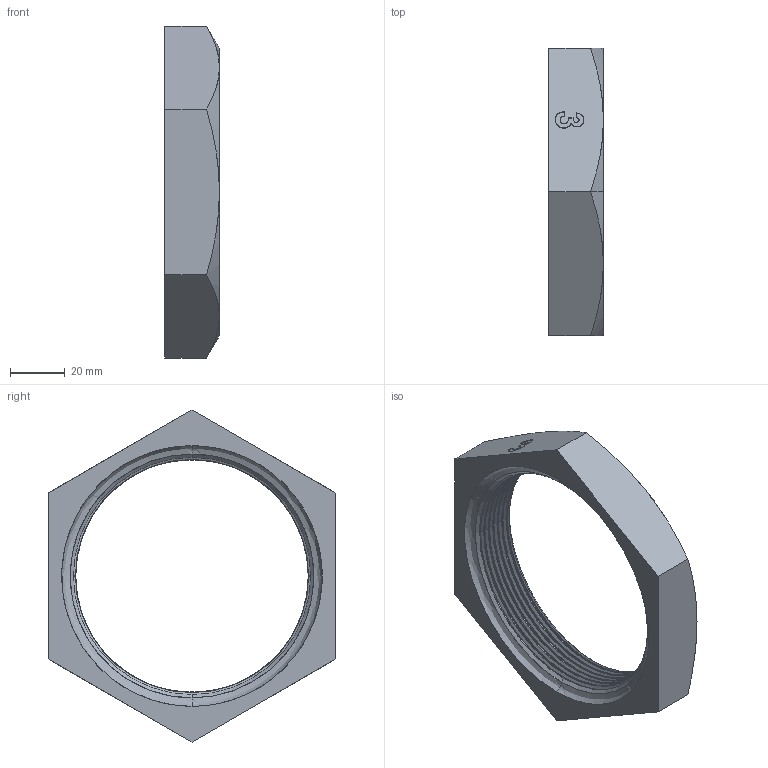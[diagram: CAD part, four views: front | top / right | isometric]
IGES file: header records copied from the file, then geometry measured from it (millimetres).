
Start section: SolidWorks IGES file using analytic representation for surfaces
Global section: file name: C:\Users\Joel Rosa\Desktop\Tubulação\12-06-XXX\12-06-012.IGS; native system: SolidWorks 2011; preprocessor: SolidWorks 2011; author: Joel Rosa; date: 130806.180626; units: millimetre
Bounding box: 20 x 105 x 121.24 mm (x, y, z)
Surface area: 21781.2 mm2 (no closed solid volume)
Topology: 0 solids, 0 shells, 172 faces, 1911 edges, 1911 vertices
Faces by surface type: bspline 133, revolution 39
